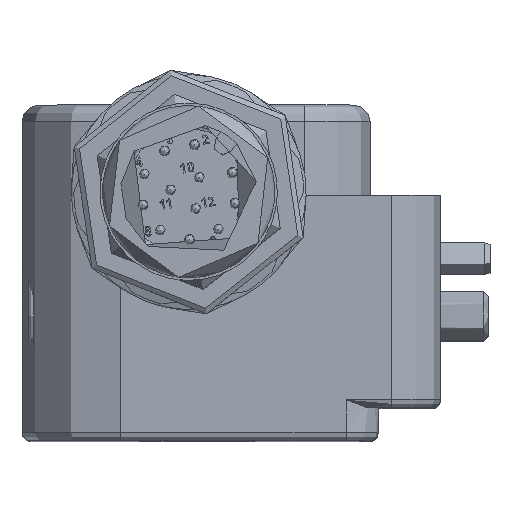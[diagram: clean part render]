
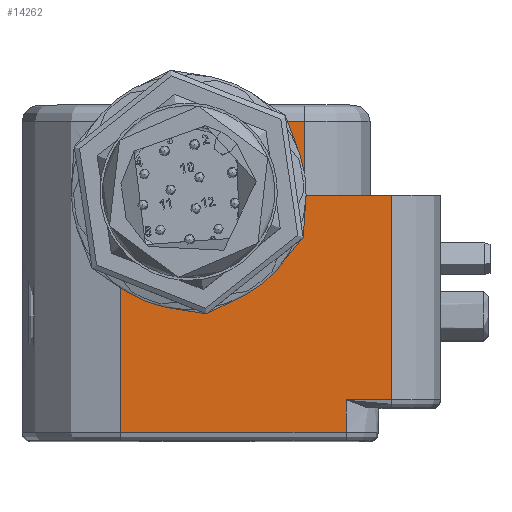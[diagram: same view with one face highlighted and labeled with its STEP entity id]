
A CAD part, top view. The second image highlights one B-rep face of the part: STEP entity #14262.
In plain terms, the highlighted planar face has unit normal (0, 0, 1).
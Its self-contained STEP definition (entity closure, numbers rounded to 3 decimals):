
#895=PLANE('',#15460);
#1593=FACE_OUTER_BOUND('',#2433,.T.);
#2433=EDGE_LOOP('',(#10507,#10508,#10509,#10510,#10511,#10512,#10513,#10514,
#10515,#10516,#10517));
#3381=LINE('',#22657,#4297);
#3383=LINE('',#22662,#4299);
#3389=LINE('',#22677,#4305);
#3410=LINE('',#22808,#4326);
#3412=LINE('',#22814,#4328);
#3413=LINE('',#22815,#4329);
#3414=LINE('',#22817,#4330);
#3415=LINE('',#22823,#4331);
#3416=LINE('',#22824,#4332);
#4297=VECTOR('',#17828,10.);
#4299=VECTOR('',#17834,10.);
#4305=VECTOR('',#17850,10.);
#4326=VECTOR('',#17937,10.);
#4328=VECTOR('',#17943,10.);
#4329=VECTOR('',#17944,3.);
#4330=VECTOR('',#17945,10.);
#4331=VECTOR('',#17950,10.);
#4332=VECTOR('',#17951,10.);
#5249=CIRCLE('',#15461,4.4);
#5250=CIRCLE('',#15462,4.4);
#6083=VERTEX_POINT('',#22587);
#6099=VERTEX_POINT('',#22652);
#6100=VERTEX_POINT('',#22661);
#6104=VERTEX_POINT('',#22676);
#6144=VERTEX_POINT('',#22786);
#6145=VERTEX_POINT('',#22790);
#6148=VERTEX_POINT('',#22813);
#6149=VERTEX_POINT('',#22816);
#6150=VERTEX_POINT('',#22818);
#6151=VERTEX_POINT('',#22820);
#6152=VERTEX_POINT('',#22822);
#7694=EDGE_CURVE('',#6083,#6099,#3381,.T.);
#7696=EDGE_CURVE('',#6099,#6100,#3383,.T.);
#7704=EDGE_CURVE('',#6104,#6100,#3389,.T.);
#7753=EDGE_CURVE('',#6145,#6144,#3410,.T.);
#7756=EDGE_CURVE('',#6145,#6148,#3412,.T.);
#7757=EDGE_CURVE('',#6104,#6148,#3413,.T.);
#7758=EDGE_CURVE('',#6149,#6083,#3414,.T.);
#7759=EDGE_CURVE('',#6150,#6149,#5249,.T.);
#7760=EDGE_CURVE('',#6151,#6150,#5250,.T.);
#7761=EDGE_CURVE('',#6152,#6151,#3415,.T.);
#7762=EDGE_CURVE('',#6144,#6152,#3416,.T.);
#10507=ORIENTED_EDGE('',*,*,#7753,.F.);
#10508=ORIENTED_EDGE('',*,*,#7756,.T.);
#10509=ORIENTED_EDGE('',*,*,#7757,.F.);
#10510=ORIENTED_EDGE('',*,*,#7704,.T.);
#10511=ORIENTED_EDGE('',*,*,#7696,.F.);
#10512=ORIENTED_EDGE('',*,*,#7694,.F.);
#10513=ORIENTED_EDGE('',*,*,#7758,.F.);
#10514=ORIENTED_EDGE('',*,*,#7759,.F.);
#10515=ORIENTED_EDGE('',*,*,#7760,.F.);
#10516=ORIENTED_EDGE('',*,*,#7761,.F.);
#10517=ORIENTED_EDGE('',*,*,#7762,.F.);
#14262=ADVANCED_FACE('',(#1593),#895,.T.);
#15460=AXIS2_PLACEMENT_3D('',#22812,#17941,#17942);
#15461=AXIS2_PLACEMENT_3D('',#22819,#17946,#17947);
#15462=AXIS2_PLACEMENT_3D('',#22821,#17948,#17949);
#17828=DIRECTION('',(1.,0.,0.));
#17834=DIRECTION('',(0.,-1.,0.));
#17850=DIRECTION('',(-1.,0.,0.));
#17937=DIRECTION('',(0.,-1.,0.));
#17941=DIRECTION('center_axis',(0.,0.,
1.));
#17942=DIRECTION('ref_axis',(0.,1.,0.));
#17943=DIRECTION('',(1.,0.,0.));
#17944=DIRECTION('',(0.,-1.,0.));
#17945=DIRECTION('',(0.,1.,0.));
#17946=DIRECTION('center_axis',(0.,0.,
1.));
#17947=DIRECTION('ref_axis',(0.,1.,0.));
#17948=DIRECTION('center_axis',(0.,0.,
1.));
#17949=DIRECTION('ref_axis',(0.,1.,0.));
#17950=DIRECTION('',(0.,1.,0.));
#17951=DIRECTION('',(-1.,0.,0.));
#22587=CARTESIAN_POINT('',(-5.05,28.6,19.));
#22652=CARTESIAN_POINT('',(6.15,28.6,19.));
#22657=CARTESIAN_POINT('',(-5.75,28.6,19.));
#22661=CARTESIAN_POINT('',(6.15,24.1,19.));
#22662=CARTESIAN_POINT('',(6.15,29.6,19.));
#22676=CARTESIAN_POINT('',(11.45,24.1,19.));
#22677=CARTESIAN_POINT('',(14.45,24.1,19.));
#22786=CARTESIAN_POINT('',(8.69,9.65,19.));
#22790=CARTESIAN_POINT('',(8.69,11.65,19.));
#22808=CARTESIAN_POINT('',(8.69,9.15,19.));
#22812=CARTESIAN_POINT('Origin',(-11.05,24.1,19.));
#22813=CARTESIAN_POINT('',(11.45,11.65,19.));
#22814=CARTESIAN_POINT('',(14.771,11.65,19.));
#22815=CARTESIAN_POINT('',(11.45,24.1,19.));
#22816=CARTESIAN_POINT('',(-5.05,25.562,19.));
#22817=CARTESIAN_POINT('',(-5.05,29.6,19.));
#22818=CARTESIAN_POINT('',(-0.9,28.5,19.));
#22819=CARTESIAN_POINT('Origin',(-0.9,24.1,19.));
#22820=CARTESIAN_POINT('',(-5.05,22.638,19.));
#22821=CARTESIAN_POINT('Origin',(-0.9,24.1,19.));
#22822=CARTESIAN_POINT('',(-5.05,9.65,19.));
#22823=CARTESIAN_POINT('',(-5.05,24.1,19.));
#22824=CARTESIAN_POINT('',(-4.675,9.65,19.));
